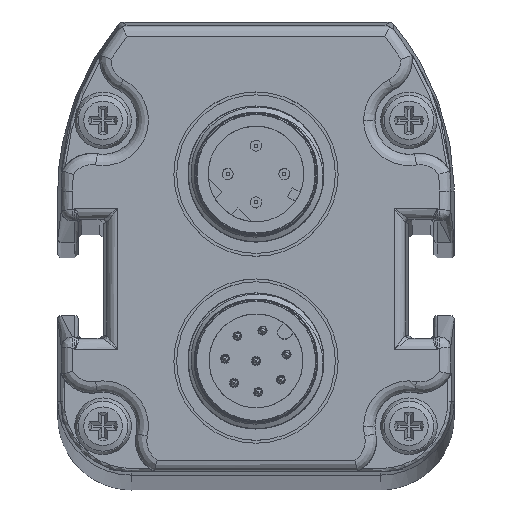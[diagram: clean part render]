
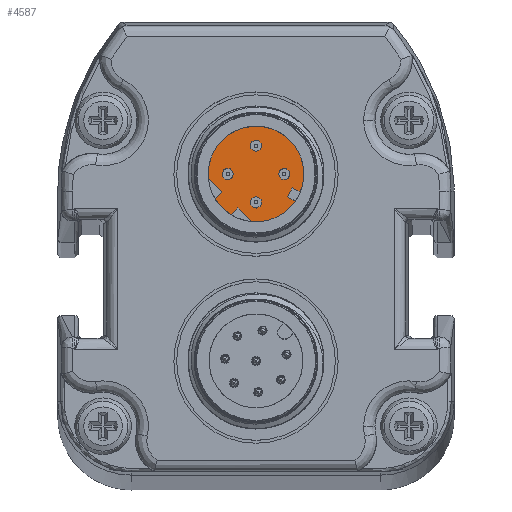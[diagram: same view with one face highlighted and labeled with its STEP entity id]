
A CAD part, top view. The second image highlights one B-rep face of the part: STEP entity #4587.
In plain terms, the highlighted planar face has unit normal (0, 0, 1).
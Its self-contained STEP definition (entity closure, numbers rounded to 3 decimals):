
#3911=FACE_BOUND('',#5992,.T.);
#3912=FACE_BOUND('',#5993,.T.);
#3913=FACE_BOUND('',#5994,.T.);
#3914=FACE_BOUND('',#5995,.T.);
#3915=FACE_BOUND('',#5996,.T.);
#4587=ADVANCED_FACE('F38',(#3911,#3912,#3913,#3914,#3915),#5025,.F.);
#5025=PLANE('',#14100);
#5992=EDGE_LOOP('',(#8925,#8926,#8927,#8928,#8929,#8930,#8931,#8932,#8933,
#8934,#8935));
#5993=EDGE_LOOP('',(#8936));
#5994=EDGE_LOOP('',(#8937));
#5995=EDGE_LOOP('',(#8938));
#5996=EDGE_LOOP('',(#8939));
#6525=CIRCLE('',#14086,4.225);
#6527=CIRCLE('',#14088,4.225);
#6529=CIRCLE('',#14090,4.225);
#6530=CIRCLE('',#14091,4.225);
#6532=CIRCLE('',#14096,0.5);
#6533=CIRCLE('',#14097,0.5);
#6534=CIRCLE('',#14098,0.5);
#6535=CIRCLE('',#14099,0.5);
#8925=ORIENTED_EDGE('',*,*,#12303,.T.);
#8926=ORIENTED_EDGE('',*,*,#12301,.T.);
#8927=ORIENTED_EDGE('',*,*,#12311,.F.);
#8928=ORIENTED_EDGE('',*,*,#12312,.F.);
#8929=ORIENTED_EDGE('',*,*,#12297,.T.);
#8930=ORIENTED_EDGE('',*,*,#12313,.F.);
#8931=ORIENTED_EDGE('',*,*,#12314,.F.);
#8932=ORIENTED_EDGE('',*,*,#12293,.T.);
#8933=ORIENTED_EDGE('',*,*,#12315,.F.);
#8934=ORIENTED_EDGE('',*,*,#12316,.F.);
#8935=ORIENTED_EDGE('',*,*,#12309,.F.);
#8936=ORIENTED_EDGE('',*,*,#12317,.F.);
#8937=ORIENTED_EDGE('',*,*,#12318,.F.);
#8938=ORIENTED_EDGE('',*,*,#12319,.F.);
#8939=ORIENTED_EDGE('',*,*,#12320,.F.);
#11032=VERTEX_POINT('',#24500);
#11034=VERTEX_POINT('',#24503);
#11037=VERTEX_POINT('',#24509);
#11038=VERTEX_POINT('',#24511);
#11041=VERTEX_POINT('',#24517);
#11042=VERTEX_POINT('',#24519);
#11043=VERTEX_POINT('',#24522);
#11047=VERTEX_POINT('',#24534);
#11048=VERTEX_POINT('',#24538);
#11049=VERTEX_POINT('',#24541);
#11050=VERTEX_POINT('',#24544);
#11051=VERTEX_POINT('',#24547);
#11052=VERTEX_POINT('',#24549);
#11053=VERTEX_POINT('',#24551);
#11054=VERTEX_POINT('',#24553);
#12293=EDGE_CURVE('E22',#11034,#11032,#6525,.T.);
#12297=EDGE_CURVE('E18',#11038,#11037,#6527,.T.);
#12301=EDGE_CURVE('E14',#11042,#11041,#6529,.T.);
#12303=EDGE_CURVE('E11',#11043,#11042,#6530,.T.);
#12309=EDGE_CURVE('E24',#11043,#11047,#13183,.T.);
#12311=EDGE_CURVE('E54',#11048,#11041,#13185,.T.);
#12312=EDGE_CURVE('E52',#11038,#11048,#13186,.T.);
#12313=EDGE_CURVE('E55',#11049,#11037,#13187,.T.);
#12314=EDGE_CURVE('E57',#11034,#11049,#13188,.T.);
#12315=EDGE_CURVE('E30',#11050,#11032,#13189,.T.);
#12316=EDGE_CURVE('E27',#11047,#11050,#13190,.T.);
#12317=EDGE_CURVE('E63',#11051,#11051,#6532,.T.);
#12318=EDGE_CURVE('E67',#11052,#11052,#6533,.T.);
#12319=EDGE_CURVE('E71',#11053,#11053,#6534,.T.);
#12320=EDGE_CURVE('E75',#11054,#11054,#6535,.T.);
#13183=LINE('',#24533,#13538);
#13185=LINE('',#24537,#13540);
#13186=LINE('',#24539,#13541);
#13187=LINE('',#24540,#13542);
#13188=LINE('',#24542,#13543);
#13189=LINE('',#24543,#13544);
#13190=LINE('',#24545,#13545);
#13538=VECTOR('',#15410,1.);
#13540=VECTOR('',#15414,1.);
#13541=VECTOR('',#15415,1.);
#13542=VECTOR('',#15416,1.);
#13543=VECTOR('',#15417,1.);
#13544=VECTOR('',#15418,1.);
#13545=VECTOR('',#15419,1.);
#14086=AXIS2_PLACEMENT_3D('',#24502,#15383,#15384);
#14088=AXIS2_PLACEMENT_3D('',#24510,#15389,#15390);
#14090=AXIS2_PLACEMENT_3D('',#24518,#15395,#15396);
#14091=AXIS2_PLACEMENT_3D('',#24521,#15398,#15399);
#14096=AXIS2_PLACEMENT_3D('',#24546,#15420,#15421);
#14097=AXIS2_PLACEMENT_3D('',#24548,#15422,#15423);
#14098=AXIS2_PLACEMENT_3D('',#24550,#15424,#15425);
#14099=AXIS2_PLACEMENT_3D('',#24552,#15426,#15427);
#14100=AXIS2_PLACEMENT_3D('',#24554,#15428,#15429);
#15383=DIRECTION('',(0.,0.,1.));
#15384=DIRECTION('',(-0.092,-0.996,0.));
#15389=DIRECTION('',(0.,0.,1.));
#15390=DIRECTION('',(-0.854,-0.52,0.));
#15395=DIRECTION('',(0.,0.,1.));
#15396=DIRECTION('',(-0.707,0.707,0.));
#15398=DIRECTION('',(0.,0.,1.));
#15399=DIRECTION('',(0.925,-0.381,0.));
#15410=DIRECTION('',(-0.879,0.477,0.));
#15414=DIRECTION('',(-0.707,0.707,0.));
#15415=DIRECTION('',(0.707,0.707,0.));
#15416=DIRECTION('',(-0.707,-0.707,0.));
#15417=DIRECTION('',(-0.707,0.707,0.));
#15418=DIRECTION('',(0.879,-0.477,0.));
#15419=DIRECTION('',(-0.477,-0.879,0.));
#15420=DIRECTION('',(0.,0.,1.));
#15421=DIRECTION('',(0.707,-0.707,0.));
#15422=DIRECTION('',(0.,0.,1.));
#15423=DIRECTION('',(0.707,-0.707,0.));
#15424=DIRECTION('',(0.,0.,1.));
#15425=DIRECTION('',(0.707,-0.707,0.));
#15426=DIRECTION('',(0.,0.,1.));
#15427=DIRECTION('',(0.707,-0.707,0.));
#15428=DIRECTION('',(0.,0.,-1.));
#15429=DIRECTION('',(-0.707,0.707,0.));
#24500=CARTESIAN_POINT('',(85.49,21.657,1688.868));
#24502=CARTESIAN_POINT('',(82.013,24.057,1688.868));
#24503=CARTESIAN_POINT('',(81.624,19.85,1688.868));
#24509=CARTESIAN_POINT('',(79.817,20.447,1688.868));
#24510=CARTESIAN_POINT('',(82.013,24.057,1688.868));
#24511=CARTESIAN_POINT('',(78.403,21.862,1688.868));
#24517=CARTESIAN_POINT('',(77.806,23.668,1688.868));
#24518=CARTESIAN_POINT('',(82.013,24.057,1688.868));
#24519=CARTESIAN_POINT('',(79.025,27.045,1688.868));
#24521=CARTESIAN_POINT('',(82.013,24.057,1688.868));
#24522=CARTESIAN_POINT('',(85.919,22.448,1688.868));
#24533=CARTESIAN_POINT('',(85.567,22.639,1688.868));
#24534=CARTESIAN_POINT('',(85.215,22.83,1688.868));
#24537=CARTESIAN_POINT('',(78.407,23.067,1688.868));
#24538=CARTESIAN_POINT('',(79.008,22.466,1688.868));
#24539=CARTESIAN_POINT('',(78.705,22.164,1688.868));
#24540=CARTESIAN_POINT('',(80.119,20.75,1688.868));
#24541=CARTESIAN_POINT('',(80.422,21.052,1688.868));
#24542=CARTESIAN_POINT('',(81.023,20.451,1688.868));
#24543=CARTESIAN_POINT('',(85.138,21.848,1688.868));
#24544=CARTESIAN_POINT('',(84.786,22.039,1688.868));
#24545=CARTESIAN_POINT('',(85.001,22.435,1688.868));
#24546=CARTESIAN_POINT('',(82.013,21.557,1688.868));
#24547=CARTESIAN_POINT('',(82.366,21.204,1688.868));
#24548=CARTESIAN_POINT('',(79.513,24.057,1688.868));
#24549=CARTESIAN_POINT('',(79.866,23.704,1688.868));
#24550=CARTESIAN_POINT('',(82.013,26.557,1688.868));
#24551=CARTESIAN_POINT('',(82.366,26.204,1688.868));
#24552=CARTESIAN_POINT('',(84.513,24.057,1688.868));
#24553=CARTESIAN_POINT('',(84.866,23.704,1688.868));
#24554=CARTESIAN_POINT('',(82.013,17.783,1688.868));
